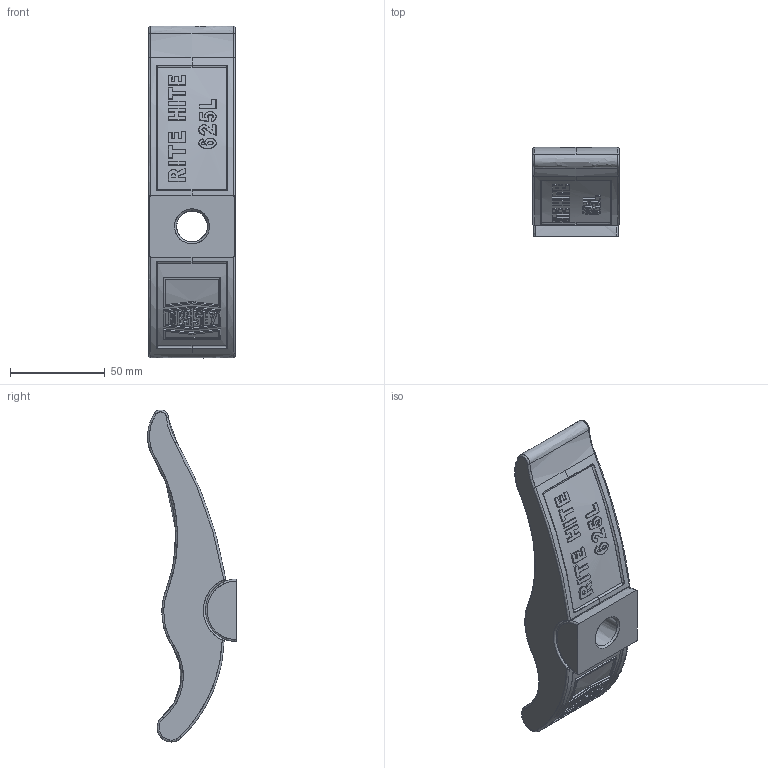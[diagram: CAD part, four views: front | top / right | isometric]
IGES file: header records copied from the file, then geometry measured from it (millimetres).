
Start section: ZWSOFT
Global section: file name: 625L.igs; native system: ZW3D; preprocessor: 1.0; author: ZW3D; organization: ZWSOFT; date: 121122.095951; units: millimetre
Bounding box: 46 x 46.97 x 175.64 mm (x, y, z)
Surface area: 32509.4 mm2 (no closed solid volume)
Topology: 0 solids, 0 shells, 647 faces, 4219 edges, 4697 vertices
Faces by surface type: bspline 647
